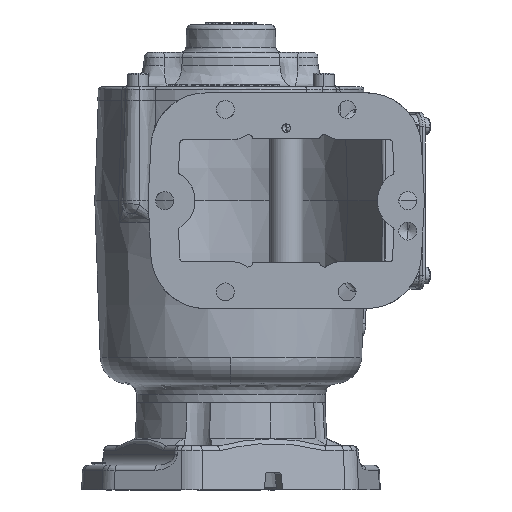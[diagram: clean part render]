
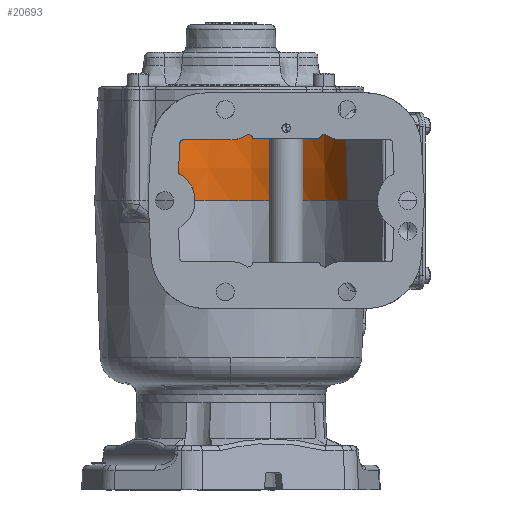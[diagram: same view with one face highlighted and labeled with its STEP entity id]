
A CAD part, front view. The second image highlights one B-rep face of the part: STEP entity #20693.
In plain terms, the highlighted conical face has half-angle 2 degrees and reference radius 71.882 mm.
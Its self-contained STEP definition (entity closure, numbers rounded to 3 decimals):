
#663 = ORIENTED_EDGE ( 'NONE', *, *, #74724, .F. ) ;
#12419 = DIRECTION ( 'NONE',  ( 0., 0., -1. ) ) ;
#18793 = VECTOR ( 'NONE', #132871, 1000. ) ;
#20693 = ADVANCED_FACE ( 'NONE', ( #25968 ), #87570, .F. ) ;
#22224 = LINE ( 'NONE', #94032, #64933 ) ;
#25968 = FACE_OUTER_BOUND ( 'NONE', #129505, .T. ) ;
#26666 = CARTESIAN_POINT ( 'NONE',  ( -31.75, 84.572, 0. ) ) ;
#39791 = CARTESIAN_POINT ( 'NONE',  ( 35.358, 110.332, 0. ) ) ;
#42752 = DIRECTION ( 'NONE',  ( 0., 0., -1. ) ) ;
#48737 = CARTESIAN_POINT ( 'NONE',  ( -102.302, 84.572, 38.1 ) ) ;
#53664 = CARTESIAN_POINT ( 'NONE',  ( -31.75, 84.572, 38.1 ) ) ;
#54078 = AXIS2_PLACEMENT_3D ( 'NONE', #53664, #42752, #135027 ) ;
#57050 = CARTESIAN_POINT ( 'NONE',  ( 34.116, 109.855, 38.1 ) ) ;
#64933 = VECTOR ( 'NONE', #103598, 1000. ) ;
#65719 = CARTESIAN_POINT ( 'NONE',  ( -103.632, 84.572, 0. ) ) ;
#71396 = CIRCLE ( 'NONE', #82341, 71.882 ) ;
#72755 = VERTEX_POINT ( 'NONE', #39791 ) ;
#74724 = EDGE_CURVE ( 'NONE', #108776, #72755, #22224, .T. ) ;
#76076 = EDGE_CURVE ( 'NONE', #124211, #108776, #86813, .T. ) ;
#78258 = LINE ( 'NONE', #89211, #18793 ) ;
#82341 = AXIS2_PLACEMENT_3D ( 'NONE', #95119, #12419, #95804 ) ;
#86813 = CIRCLE ( 'NONE', #54078, 70.552 ) ;
#87570 = CONICAL_SURFACE ( 'NONE', #91954, 71.882, 0.035 ) ;
#89211 = CARTESIAN_POINT ( 'NONE',  ( -103.632, 84.572, 0. ) ) ;
#91954 = AXIS2_PLACEMENT_3D ( 'NONE', #26666, #97748, #118919 ) ;
#94032 = CARTESIAN_POINT ( 'NONE',  ( 34.737, 110.094, 19.05 ) ) ;
#95119 = CARTESIAN_POINT ( 'NONE',  ( -31.75, 84.572, 0. ) ) ;
#95804 = DIRECTION ( 'NONE',  ( 0.934, 0.358, 0. ) ) ;
#97748 = DIRECTION ( 'NONE',  ( 0., 0., -1. ) ) ;
#103598 = DIRECTION ( 'NONE',  ( 0.033, 0.013, -0.999 ) ) ;
#108776 = VERTEX_POINT ( 'NONE', #57050 ) ;
#118919 = DIRECTION ( 'NONE',  ( -1., 0., 0. ) ) ;
#121024 = EDGE_CURVE ( 'NONE', #124211, #128396, #78258, .T. ) ;
#124211 = VERTEX_POINT ( 'NONE', #48737 ) ;
#127377 = ORIENTED_EDGE ( 'NONE', *, *, #130630, .T. ) ;
#128095 = ORIENTED_EDGE ( 'NONE', *, *, #76076, .F. ) ;
#128396 = VERTEX_POINT ( 'NONE', #65719 ) ;
#129505 = EDGE_LOOP ( 'NONE', ( #128095, #133332, #127377, #663 ) ) ;
#130630 = EDGE_CURVE ( 'NONE', #128396, #72755, #71396, .T. ) ;
#132871 = DIRECTION ( 'NONE',  ( -0.035, 0., -0.999 ) ) ;
#133332 = ORIENTED_EDGE ( 'NONE', *, *, #121024, .T. ) ;
#135027 = DIRECTION ( 'NONE',  ( -1., 0., 0. ) ) ;
